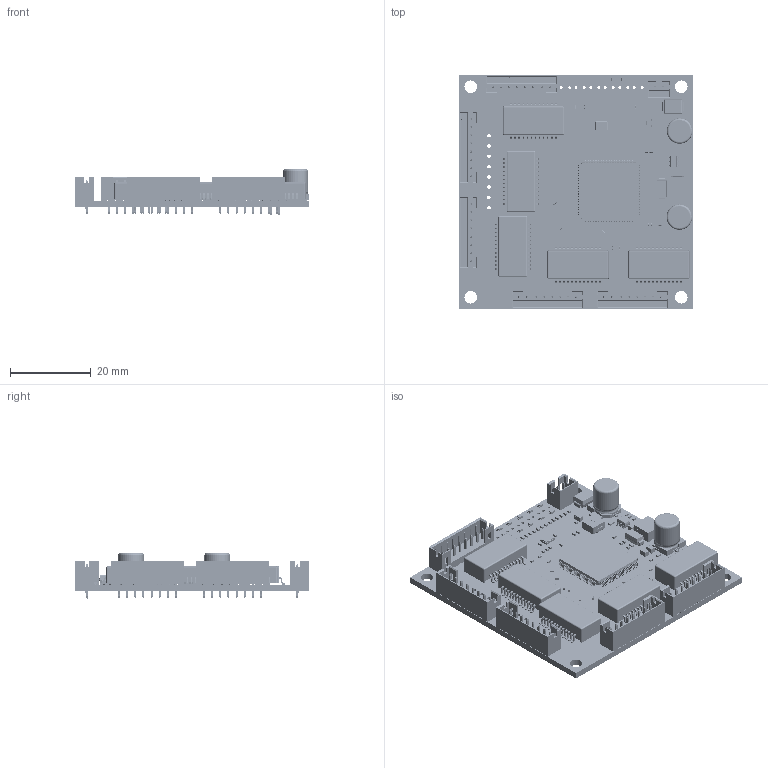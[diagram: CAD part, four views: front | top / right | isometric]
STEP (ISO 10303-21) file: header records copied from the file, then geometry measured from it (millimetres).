
FILE_DESCRIPTION(('Designed by EasyEDA Pro'),'2;1');
FILE_NAME('Open CASCADE Shape Model','2024-05-31T16:10:47',('Author'),( 'Open CASCADE'),'Open CASCADE STEP processor 7.8','Open CASCADE 7.8' ,'Unknown');
FILE_SCHEMA(('AUTOMOTIVE_DESIGN { 1 0 10303 214 1 1 1 1 }'));
Length unit declared in the file: millimetre
Products named in the file (135): PCBModel; Board; BMBV-C1; C0805; SOLID; BMBV-C51; BMBV-C3; BMBV-C5; C0402; BMBV-C39; 0402; BMBV-C34; BMBV-C35; BMBV-C36; BMBV-C37; BMBV-C101; BMBV-C100; BMBV-C116; BMBV-C2; BMBV-C127; BMBV-C93; BMBV-C94; BMBV-C95; BMBV-C96; BMBV-C97; BMBV-C98; BMBV-C102; BMBV-C103; BMBV-C104; BMBV-C105; BMBV-C106; BMBV-C107; BMBV-C108; BMBV-C110; BMBV-C112; BMBV-C113; BMBV-C117; BMBV-C130; BMBV-C99; BMBV-C48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
Assembly tree (207 placements, depth 4):
  PCBModel
    Board
    BMBV-C1
      C0805
        SOLID
    BMBV-C51
      C0805
        SOLID
    BMBV-C3
      C0805
        SOLID
    BMBV-C5
      C0402
        SOLID
    BMBV-C39
      0402
        SOLID
    BMBV-C34
      0402
        SOLID
    BMBV-C35
      0402
        SOLID
    BMBV-C36
      0402
        SOLID
    BMBV-C37
      0402
        SOLID
    BMBV-C101
      C0402
        SOLID
    BMBV-C100
      C0402
        SOLID
    BMBV-C116
      C0402
        SOLID
    BMBV-C2
      C0402
        SOLID
    BMBV-C127
      C0402
        SOLID
    BMBV-C93
      C0402
        SOLID
    BMBV-C94
      C0402
        SOLID
    BMBV-C95
      C0402
        SOLID
    BMBV-C96
      C0402
        SOLID
    BMBV-C97
      C0402
        SOLID
    BMBV-C98
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Bounding box: 57.97 x 57.97 x 11.25 mm (x, y, z)
Volume: 9567.7 mm3; surface area: 14938.7 mm2
Topology: 229 solids, 229 shells, 33060 faces, 89123 edges, 58152 vertices
Faces by surface type: plane 19283, bspline 8876, cylinder 4247, sphere 562, torus 92
Full cylindrical faces by diameter (mm): 0.003 x3, 0.7 x12, 0.8 x2, 0.889 x8, 2.54 x1, 3.1 x4
Entity records: 394859 total; most frequent: CARTESIAN_POINT 93967, ORIENTED_EDGE 50054, DIRECTION 37442, EDGE_CURVE 25027, LINE 17654, VECTOR 17654, VERTEX_POINT 16394, FACE_BOUND 9929
